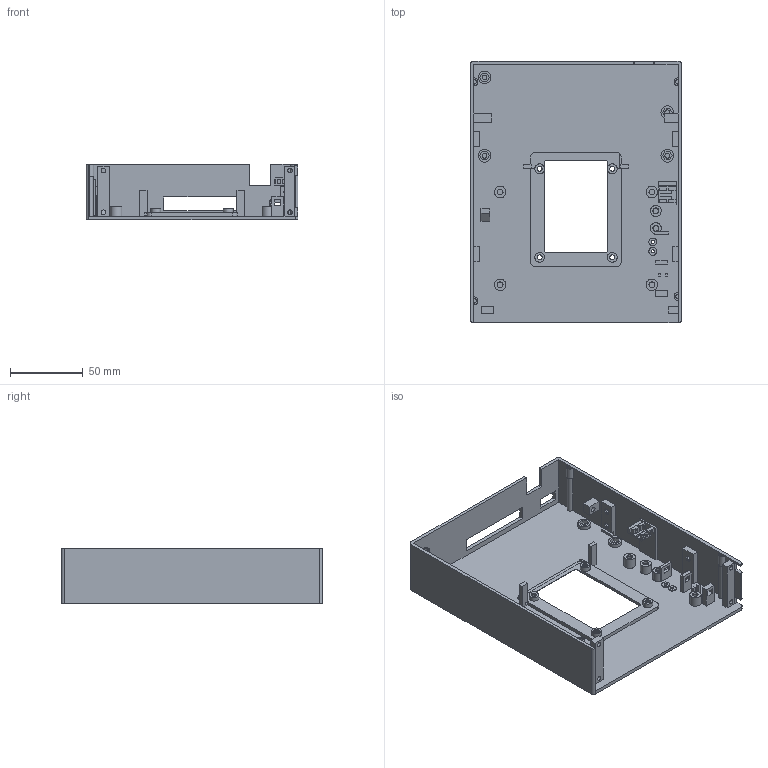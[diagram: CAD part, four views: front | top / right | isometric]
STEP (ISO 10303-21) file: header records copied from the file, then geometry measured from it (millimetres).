
FILE_DESCRIPTION(('Open CASCADE Model'),'2;1');
FILE_NAME('Open CASCADE Shape Model','2026-11-07T22:36:54',('Author'),( 'Open CASCADE'),'Open CASCADE STEP processor 7.9','Open CASCADE 7.9' ,'Unknown');
FILE_SCHEMA(('AUTOMOTIVE_DESIGN { 1 0 10303 214 1 1 1 1 }'));
Length unit declared in the file: millimetre
Products named in the file (1): Open CASCADE STEP translator 7.9 75
Bounding box: 146.05 x 180 x 38.5 mm (x, y, z)
Volume: 110264.3 mm3; surface area: 94549.2 mm2
Topology: 1 solids, 1 shells, 406 faces, 1017 edges, 669 vertices
Faces by surface type: plane 287, cylinder 99, cone 20
Full cylindrical faces by diameter (mm): 2.2 x2, 3.2 x6, 3.3 x12, 3.89 x18, 4.04 x2, 5.4 x2, 6.8 x4, 7.6 x1, 8 x4, 8.8 x4
Entity records: 25577 total; most frequent: CARTESIAN_POINT 4706, DIRECTION 3950, LINE 2556, VECTOR 2556, ORIENTED_EDGE 2034, PCURVE 2034, DEFINITIONAL_REPRESENTATION 2034, EDGE_CURVE 1017
